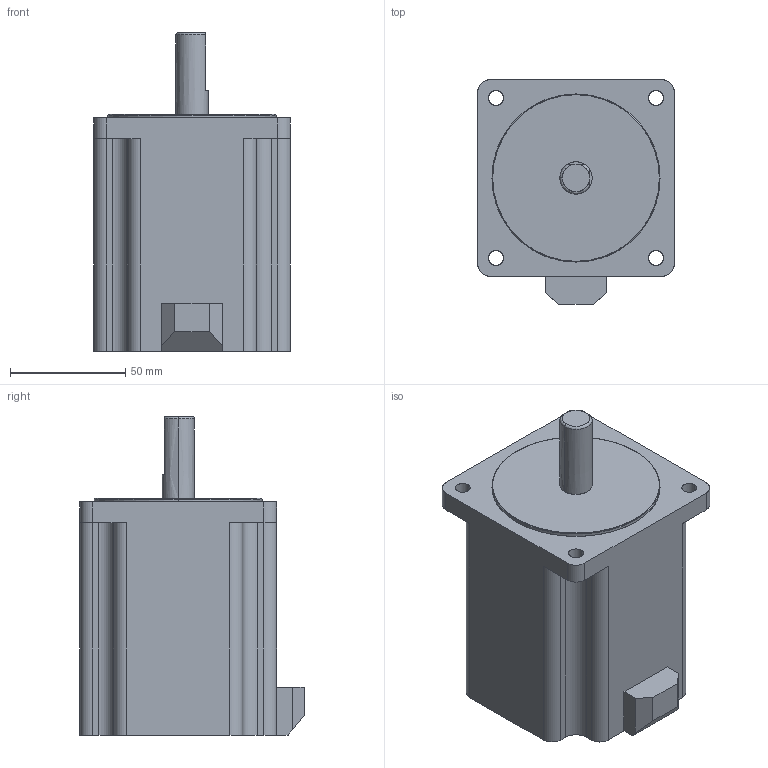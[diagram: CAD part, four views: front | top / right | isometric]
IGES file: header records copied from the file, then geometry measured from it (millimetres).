
Start section: SolidWorks IGES file using analytic representation for surfaces
Bounding box: 85.5 x 97.5 x 138.5 mm (x, y, z)
Surface area: 51263.9 mm2 (no closed solid volume)
Topology: 0 solids, 0 shells, 70 faces, 1342 edges, 1342 vertices
Faces by surface type: bspline 36, revolution 34
